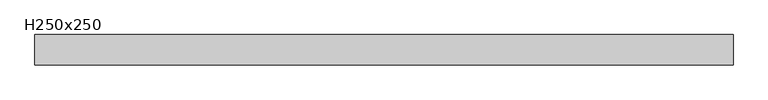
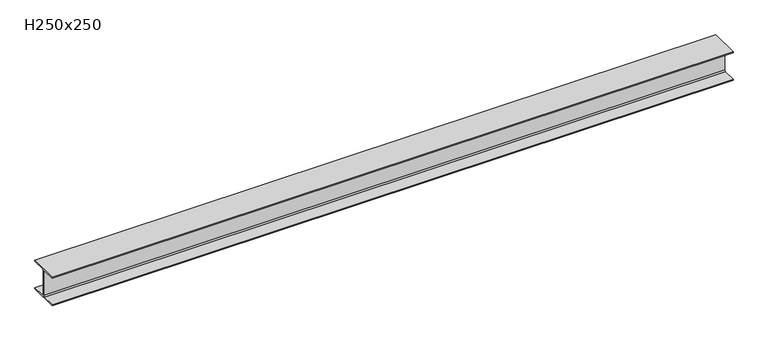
"""IFC4 building model written with IfcOpenShell, lengths in millimetres: beam geometry, H型鋼樑 : H250x250."""

from ifc_helpers import new_model, si_unit, point, frame, frame_2d, origin, place, context, project, spatial, polyline, circle_curve, trimmed, segment, composite_curve, outline, extrude, source, transform, mapped, element, save


def h250x250_0ab37fdc(model_context):
    return source(origin(), model_context, "Body", "SweptSolid", [
        extrude(outline(composite_curve([segment(polyline([(-125.0, 0.0), (125.0, 0.0), (125.0, -8.0), (13.0, -8.0)]), True, "CONTINUOUS"), segment(trimmed(circle_curve(frame_2d((13.0, -18.0)), 10.0), [point((13.0, -8.0))], [point((3.0, -18.0))], True, "CARTESIAN"), True, "CONTINUOUS"), segment(polyline([(3.0, -18.0), (3.0, -232.0)]), True, "CONTINUOUS"), segment(trimmed(circle_curve(frame_2d((13.0, -232.0)), 10.0), [point((3.0, -232.0))], [point((13.0, -242.0))], True, "CARTESIAN"), True, "CONTINUOUS"), segment(polyline([(13.0, -242.0), (125.0, -242.0), (125.0, -250.0), (-125.0, -250.0), (-125.0, -242.0), (-13.0, -242.0)]), True, "CONTINUOUS"), segment(trimmed(circle_curve(frame_2d((-13.0, -232.0)), 10.0), [point((-13.0, -242.0))], [point((-3.0, -232.0))], True, "CARTESIAN"), True, "CONTINUOUS"), segment(polyline([(-3.0, -232.0), (-3.0, -18.0)]), True, "CONTINUOUS"), segment(trimmed(circle_curve(frame_2d((-13.0, -18.0)), 10.0), [point((-3.0, -18.0))], [point((-13.0, -8.0))], True, "CARTESIAN"), True, "CONTINUOUS"), segment(polyline([(-13.0, -8.0), (-125.0, -8.0), (-125.0, 0.0)]), True, "CONTINUOUS")], self_intersect=False)), frame((-2862.3, 0.0, 0.0), z_axis=(1.0, 0.0, 0.0), x_axis=(0.0, 1.0, 0.0)), (0.0, 0.0, 1.0), 5724.6),
    ])


if __name__ == "__main__":
    model = new_model("IFC4")
    model_context = context("Model", 3, world=origin())
    ifc_project = project(units=[si_unit("LENGTHUNIT", "METRE", prefix="MILLI")], contexts=[model_context])
    site = spatial("IfcSite", under=ifc_project)
    building = spatial("IfcBuilding", under=site)
    placement = place(None, origin())
    h250x250_shape = h250x250_0ab37fdc(model_context)
    element("IfcBeam", 1, ObjectType="H型鋼樑 : H250x250", at=placement, inside=building, context=model_context, shape_type="MappedRepresentation", body=[
        mapped(h250x250_shape, transform((0.0, 0.0, 0.0), x_axis=(1.0, 0.0, 0.0), y_axis=(0.0, 1.0, 0.0), z_axis=(0.0, 0.0, 1.0))),
    ])
    save(model, "model.ifc")
